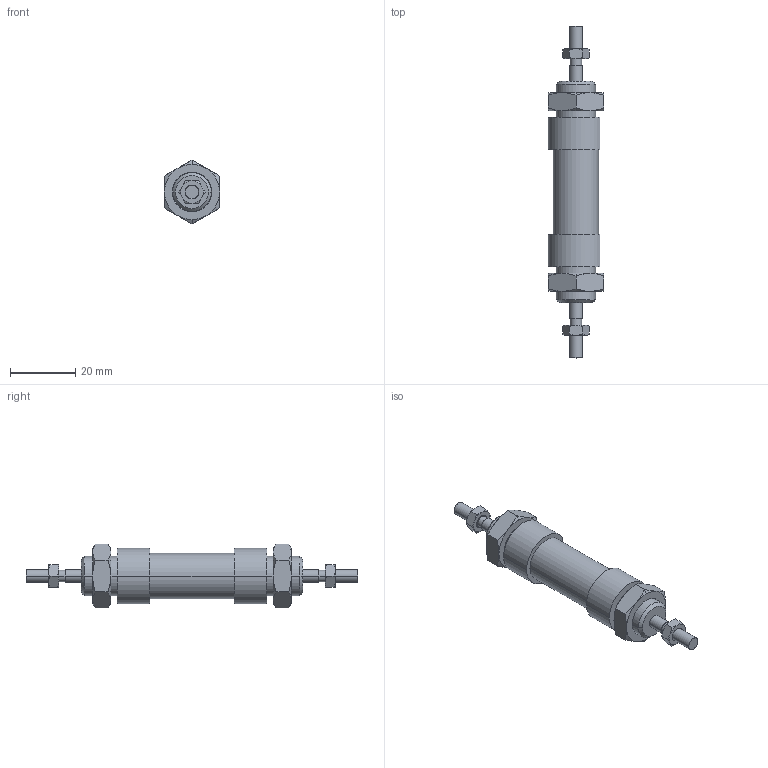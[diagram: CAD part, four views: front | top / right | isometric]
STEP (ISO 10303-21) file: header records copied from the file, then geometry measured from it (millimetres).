
FILE_DESCRIPTION((''),'2;1');
FILE_NAME('I:\DOC-EDP\Lib-3d\1200\CILINDRI\1262\1262_10_0000.stp','2003-04-02T18:56:28',('maffial1'),(''),'Autodesk Inventor (R) 6.0','Autodesk Inventor (R) 6.0','');
FILE_SCHEMA(('AUTOMOTIVE_DESIGN { 1 0 10303 214 1 1 1 1 }'));
Length unit declared in the file: millimetre
Products named in the file (5): 1262_10_0000; S1262_10_0; C1262_10_0; 1200_10_05; 1200_10_06
Assembly tree (6 placements, depth 2):
  1262_10_0000
    S1262_10_0
    C1262_10_0
    1200_10_05  x2
    1200_10_06  x2
Bounding box: 17 x 102 x 19.63 mm (x, y, z)
Volume: 13018.8 mm3; surface area: 7713.4 mm2
Topology: 6 solids, 6 shells, 170 faces, 356 edges, 208 vertices
Faces by surface type: cone 72, plane 46, bspline 30, cylinder 22
Entity records: 3247 total; most frequent: CARTESIAN_POINT 893, DIRECTION 490, ORIENTED_EDGE 456, EDGE_CURVE 228, AXIS2_PLACEMENT_3D 209, VERTEX_POINT 136, EDGE_LOOP 126, FACE_OUTER_BOUND 110
